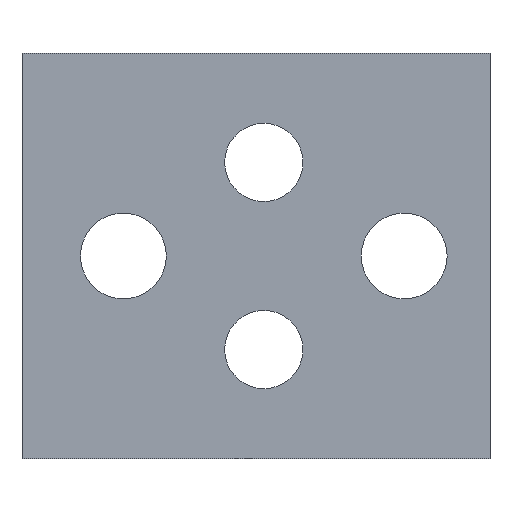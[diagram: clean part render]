
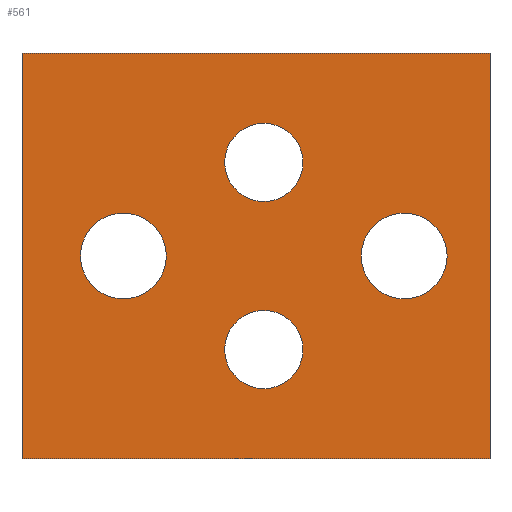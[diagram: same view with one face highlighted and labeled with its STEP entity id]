
A CAD part, front view. The second image highlights one B-rep face of the part: STEP entity #561.
In plain terms, the highlighted planar face has unit normal (0, -1, 0).
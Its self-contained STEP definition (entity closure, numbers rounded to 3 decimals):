
#21 = CARTESIAN_POINT ( 'NONE',  ( -30., 0., 13. ) ) ;
#23 = CARTESIAN_POINT ( 'NONE',  ( 0., 0., 13. ) ) ;
#31 = CARTESIAN_POINT ( 'NONE',  ( -30., 0., -13. ) ) ;
#76 = EDGE_CURVE ( 'NONE', #128, #519, #423, .T. ) ;
#77 = EDGE_CURVE ( 'NONE', #127, #520, #427, .T. ) ;
#78 = EDGE_CURVE ( 'NONE', #514, #511, #429, .T. ) ;
#79 = EDGE_CURVE ( 'NONE', #510, #513, #430, .T. ) ;
#80 = EDGE_CURVE ( 'NONE', #1055, #521, #431, .T. ) ;
#81 = EDGE_CURVE ( 'NONE', #1047, #521, #432, .T. ) ;
#82 = EDGE_CURVE ( 'NONE', #1045, #1047, #433, .T. ) ;
#83 = EDGE_CURVE ( 'NONE', #1045, #1055, #435, .T. ) ;
#121 = AXIS2_PLACEMENT_3D ( 'NONE', #980, #976, #975 ) ;
#122 = AXIS2_PLACEMENT_3D ( 'NONE', #969, #965, #963 ) ;
#123 = AXIS2_PLACEMENT_3D ( 'NONE', #992, #991, #990 ) ;
#127 = VERTEX_POINT ( 'NONE', #621 ) ;
#128 = VERTEX_POINT ( 'NONE', #638 ) ;
#132 = AXIS2_PLACEMENT_3D ( 'NONE', #987, #986, #985 ) ;
#167 = AXIS2_PLACEMENT_3D ( 'NONE', #726, #722, #728 ) ;
#172 = AXIS2_PLACEMENT_3D ( 'NONE', #766, #767, #768 ) ;
#181 = AXIS2_PLACEMENT_3D ( 'NONE', #778, #779, #780 ) ;
#186 = AXIS2_PLACEMENT_3D ( 'NONE', #797, #798, #799 ) ;
#188 = AXIS2_PLACEMENT_3D ( 'NONE', #807, #808, #809 ) ;
#219 = EDGE_LOOP ( 'NONE', ( #325, #293 ) ) ;
#221 = EDGE_LOOP ( 'NONE', ( #317, #316 ) ) ;
#271 = ORIENTED_EDGE ( 'NONE', *, *, #77, .F. ) ;
#293 = ORIENTED_EDGE ( 'NONE', *, *, #944, .T. ) ;
#300 = ORIENTED_EDGE ( 'NONE', *, *, #81, .F. ) ;
#301 = ORIENTED_EDGE ( 'NONE', *, *, #932, .F. ) ;
#302 = ORIENTED_EDGE ( 'NONE', *, *, #76, .F. ) ;
#314 = ORIENTED_EDGE ( 'NONE', *, *, #80, .T. ) ;
#316 = ORIENTED_EDGE ( 'NONE', *, *, #948, .T. ) ;
#317 = ORIENTED_EDGE ( 'NONE', *, *, #79, .T. ) ;
#320 = ORIENTED_EDGE ( 'NONE', *, *, #936, .F. ) ;
#325 = ORIENTED_EDGE ( 'NONE', *, *, #78, .T. ) ;
#331 = ORIENTED_EDGE ( 'NONE', *, *, #82, .F. ) ;
#369 = ORIENTED_EDGE ( 'NONE', *, *, #83, .T. ) ;
#423 = CIRCLE ( 'NONE', #121, 2.51 ) ;
#427 = CIRCLE ( 'NONE', #122, 2.51 ) ;
#429 = CIRCLE ( 'NONE', #123, 2.75 ) ;
#430 = CIRCLE ( 'NONE', #132, 2.75 ) ;
#431 = LINE ( 'NONE', #988, #434 ) ;
#432 = LINE ( 'NONE', #989, #436 ) ;
#433 = LINE ( 'NONE', #996, #438 ) ;
#434 = VECTOR ( 'NONE', #983, 1000. ) ;
#435 = LINE ( 'NONE', #984, #440 ) ;
#436 = VECTOR ( 'NONE', #982, 1000. ) ;
#438 = VECTOR ( 'NONE', #995, 1000. ) ;
#440 = VECTOR ( 'NONE', #981, 1000. ) ;
#510 = VERTEX_POINT ( 'NONE', #645 ) ;
#511 = VERTEX_POINT ( 'NONE', #643 ) ;
#513 = VERTEX_POINT ( 'NONE', #644 ) ;
#514 = VERTEX_POINT ( 'NONE', #647 ) ;
#518 = EDGE_LOOP ( 'NONE', ( #320, #271 ) ) ;
#519 = VERTEX_POINT ( 'NONE', #649 ) ;
#520 = VERTEX_POINT ( 'NONE', #650 ) ;
#521 = VERTEX_POINT ( 'NONE', #651 ) ;
#524 = EDGE_LOOP ( 'NONE', ( #314, #300, #331, #369 ) ) ;
#561 = ADVANCED_FACE ( 'NONE', ( #821, #829, #825, #823, #827 ), #724, .F. ) ;
#621 = CARTESIAN_POINT ( 'NONE',  ( -11.99, 0., 6. ) ) ;
#638 = CARTESIAN_POINT ( 'NONE',  ( -11.99, 0., -6. ) ) ;
#643 = CARTESIAN_POINT ( 'NONE',  ( -23.5, 0., -2.75 ) ) ;
#644 = CARTESIAN_POINT ( 'NONE',  ( -5.5, 0., -2.75 ) ) ;
#645 = CARTESIAN_POINT ( 'NONE',  ( -5.5, 0., 2.75 ) ) ;
#647 = CARTESIAN_POINT ( 'NONE',  ( -23.5, 0., 2.75 ) ) ;
#649 = CARTESIAN_POINT ( 'NONE',  ( -17.01, 0., -6. ) ) ;
#650 = CARTESIAN_POINT ( 'NONE',  ( -17.01, 0., 6. ) ) ;
#651 = CARTESIAN_POINT ( 'NONE',  ( 0., 0., -13. ) ) ;
#722 = DIRECTION ( 'NONE',  ( 0., 1., 0. ) ) ;
#724 = PLANE ( 'NONE',  #167 ) ;
#726 = CARTESIAN_POINT ( 'NONE',  ( -30., 0., 13. ) ) ;
#728 = DIRECTION ( 'NONE',  ( 0., 0., 1. ) ) ;
#766 = CARTESIAN_POINT ( 'NONE',  ( -14.5, 0., -6. ) ) ;
#767 = DIRECTION ( 'NONE',  ( 0., -1., 0. ) ) ;
#768 = DIRECTION ( 'NONE',  ( 0., 0., 1. ) ) ;
#778 = CARTESIAN_POINT ( 'NONE',  ( -14.5, 0., 6. ) ) ;
#779 = DIRECTION ( 'NONE',  ( 0., -1., 0. ) ) ;
#780 = DIRECTION ( 'NONE',  ( 0., 0., 1. ) ) ;
#797 = CARTESIAN_POINT ( 'NONE',  ( -23.5, 0., 0. ) ) ;
#798 = DIRECTION ( 'NONE',  ( 0., 1., 0. ) ) ;
#799 = DIRECTION ( 'NONE',  ( 0., 0., 1. ) ) ;
#807 = CARTESIAN_POINT ( 'NONE',  ( -5.5, 0., 0. ) ) ;
#808 = DIRECTION ( 'NONE',  ( 0., 1., 0. ) ) ;
#809 = DIRECTION ( 'NONE',  ( 0., 0., 1. ) ) ;
#821 = FACE_BOUND ( 'NONE', #1032, .T. ) ;
#823 = FACE_BOUND ( 'NONE', #221, .T. ) ;
#825 = FACE_BOUND ( 'NONE', #219, .T. ) ;
#827 = FACE_OUTER_BOUND ( 'NONE', #524, .T. ) ;
#829 = FACE_BOUND ( 'NONE', #518, .T. ) ;
#861 = CIRCLE ( 'NONE', #172, 2.51 ) ;
#865 = CIRCLE ( 'NONE', #181, 2.51 ) ;
#877 = CIRCLE ( 'NONE', #186, 2.75 ) ;
#883 = CIRCLE ( 'NONE', #188, 2.75 ) ;
#932 = EDGE_CURVE ( 'NONE', #519, #128, #861, .T. ) ;
#936 = EDGE_CURVE ( 'NONE', #520, #127, #865, .T. ) ;
#944 = EDGE_CURVE ( 'NONE', #511, #514, #877, .T. ) ;
#948 = EDGE_CURVE ( 'NONE', #513, #510, #883, .T. ) ;
#963 = DIRECTION ( 'NONE',  ( 0., 0., 1. ) ) ;
#965 = DIRECTION ( 'NONE',  ( 0., -1., 0. ) ) ;
#969 = CARTESIAN_POINT ( 'NONE',  ( -14.5, 0., 6. ) ) ;
#975 = DIRECTION ( 'NONE',  ( 0., 0., 1. ) ) ;
#976 = DIRECTION ( 'NONE',  ( 0., -1., 0. ) ) ;
#980 = CARTESIAN_POINT ( 'NONE',  ( -14.5, 0., -6. ) ) ;
#981 = DIRECTION ( 'NONE',  ( 0., 0., -1. ) ) ;
#982 = DIRECTION ( 'NONE',  ( 0., 0., -1. ) ) ;
#983 = DIRECTION ( 'NONE',  ( 1., 0., 0. ) ) ;
#984 = CARTESIAN_POINT ( 'NONE',  ( -30., 0., 13. ) ) ;
#985 = DIRECTION ( 'NONE',  ( 0., 0., 1. ) ) ;
#986 = DIRECTION ( 'NONE',  ( 0., 1., 0. ) ) ;
#987 = CARTESIAN_POINT ( 'NONE',  ( -5.5, 0., 0. ) ) ;
#988 = CARTESIAN_POINT ( 'NONE',  ( -30., 0., -13. ) ) ;
#989 = CARTESIAN_POINT ( 'NONE',  ( 0., 0., 13. ) ) ;
#990 = DIRECTION ( 'NONE',  ( 0., 0., 1. ) ) ;
#991 = DIRECTION ( 'NONE',  ( 0., 1., 0. ) ) ;
#992 = CARTESIAN_POINT ( 'NONE',  ( -23.5, 0., 0. ) ) ;
#995 = DIRECTION ( 'NONE',  ( 1., 0., 0. ) ) ;
#996 = CARTESIAN_POINT ( 'NONE',  ( -30., 0., 13. ) ) ;
#1032 = EDGE_LOOP ( 'NONE', ( #301, #302 ) ) ;
#1045 = VERTEX_POINT ( 'NONE', #21 ) ;
#1047 = VERTEX_POINT ( 'NONE', #23 ) ;
#1055 = VERTEX_POINT ( 'NONE', #31 ) ;
